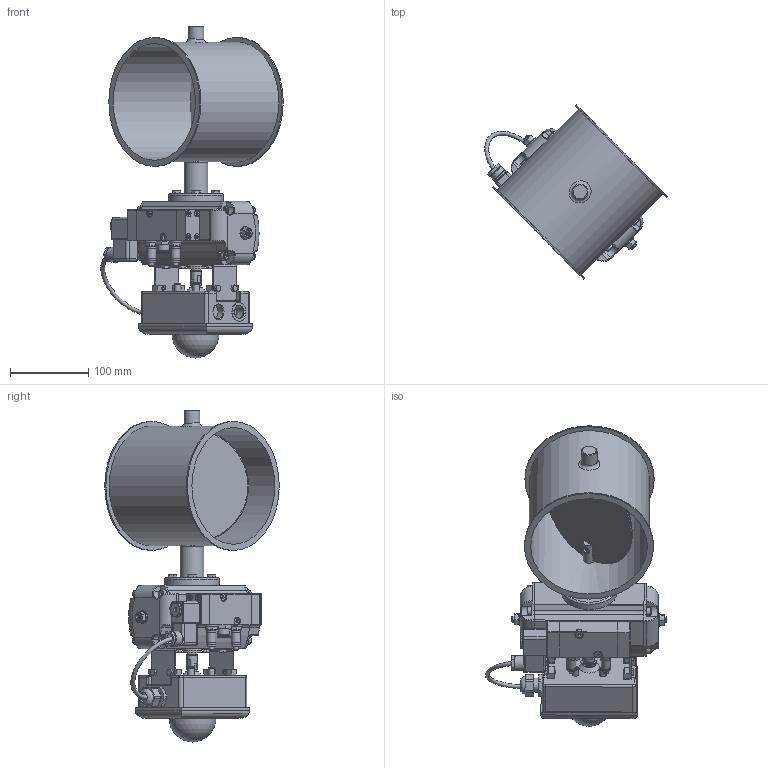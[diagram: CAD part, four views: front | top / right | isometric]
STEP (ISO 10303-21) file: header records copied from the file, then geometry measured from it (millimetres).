
FILE_DESCRIPTION((''),'2;1');
FILE_NAME('U:\Wolfgang\Marcel-3D\fertig\Kapitel 8\1521213.stp','2011-05-03T15:02:21',('TK1'),(''),'Autodesk Inventor 2010','Autodesk Inventor 2010','');
FILE_SCHEMA(('AUTOMOTIVE_DESIGN { 1 0 10303 214 1 1 1 1 }'));
Length unit declared in the file: millimetre
Products named in the file (41): 1521213; Bolzen D15; Scheibe150; DIN 6912 M6 x 16; 1521211-1; Antrieb Flowserve; BuchseD15 70-50; Pneumatischer SchwenkantriebS63D-2; Body; roter Verschluss; A1 Schwenkantrieb; Body S063D; End Cap L; End Cap R; DIN EN ISO 4762 M6 x 12; DIN EN ISO 4018 M5x10; DIN 916 M8  x  40; DIN 555 - ersetzt durch DIN EN 24034 M8; DIN 125-1 A A 8,4; DIN 125-1 A A 13; A1 Ventileinheit-2; Ventil1; Ventil1a; Ventil1b; Ventil1a_1; Ventil1b_1; ISO 7046-1 Z M4 x 25 - 4.8 - Z; Ventil1c; Ventil1d; ISO 7047 (H) M3x8 - 4.8 - H; DIN 7984 M6 x 40; DIN EN ISO 7042 M8; Ventil1e; Ventil1f; DIN EN 24766 M6 x 30; DIN 439-2 - ersetzt durch DIN EN 24035/28675 M6; entlüftung; Halterung; Deckel2; Schlauch 1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
Assembly tree (79 placements, depth 5):
  1521213
    Bolzen D15  x2
    Scheibe150
    DIN 6912 M6 x 16  x2
    1521211-1
    Antrieb Flowserve
      BuchseD15 70-50
      Pneumatischer SchwenkantriebS63D-2
        Body
        roter Verschluss
        A1 Schwenkantrieb
          Body S063D
          End Cap L
          End Cap R
          DIN EN ISO 4762 M6 x 12  x8
          DIN EN ISO 4018 M5x10  x4
          DIN 916 M8  x  40  x2
          DIN 555 - ersetzt durch DIN EN 24034 M8  x2
          DIN 125-1 A A 8,4  x2
          DIN 125-1 A A 13  x2
        A1 Ventileinheit-2
          Ventil1
          Ventil1a
          Ventil1b
          Ventil1a_1
          Ventil1b_1
          ISO 7046-1 Z M4 x 25 - 4.8 - Z  x8
          Ventil1c
          Ventil1d
          ISO 7047 (H) M3x8 - 4.8 - H
          DIN 7984 M6 x 40  x2
          DIN EN ISO 7042 M8  x2
          DIN 125-1 A A 8,4  x2
          Ventil1e  x2
          Ventil1f  x2
          DIN EN 24766 M6 x 30  x2
          DIN 439-2 - ersetzt durch DIN EN 24035/28675 M6  x2
          entlüftung
        Halterung  x2
        DIN EN ISO 4018 M5x10  x4
        Deckel2
        Schlauch 1
      DIN EN ISO 4018 M6x25  x4
Bounding box: 232.98 x 222.78 x 424 mm (x, y, z)
Volume: 1729560.9 mm3; surface area: 480438.1 mm2
Topology: 78 solids, 79 shells, 1677 faces, 3965 edges, 2520 vertices
Faces by surface type: plane 822, cylinder 326, cone 302, bspline 146, torus 73, sphere 8
Full cylindrical faces by diameter (mm): 2.5 x1, 3 x3, 3.242 x8, 3.571 x8, 4 x8, 4.917 x4, 5 x10, 5.5 x1, 6 x24, 6.647 x1, 8 x6, 8.4 x12, 10 x14, 11.63 x6, 11.9 x2, 12 x1, 12.5 x1, 13 x7, 14 x5, 15 x3, 15.5 x1, 15.918 x1, 16 x5, 16.918 x1, 17 x3, 17.79 x2, 18 x3, 19 x2, 20 x1, 22 x1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
Entity records: 30453 total; most frequent: CARTESIAN_POINT 8267, DIRECTION 4459, ORIENTED_EDGE 3886, EDGE_CURVE 1943, AXIS2_PLACEMENT_3D 1764, VERTEX_POINT 1364, EDGE_LOOP 1358, FACE_OUTER_BOUND 957
